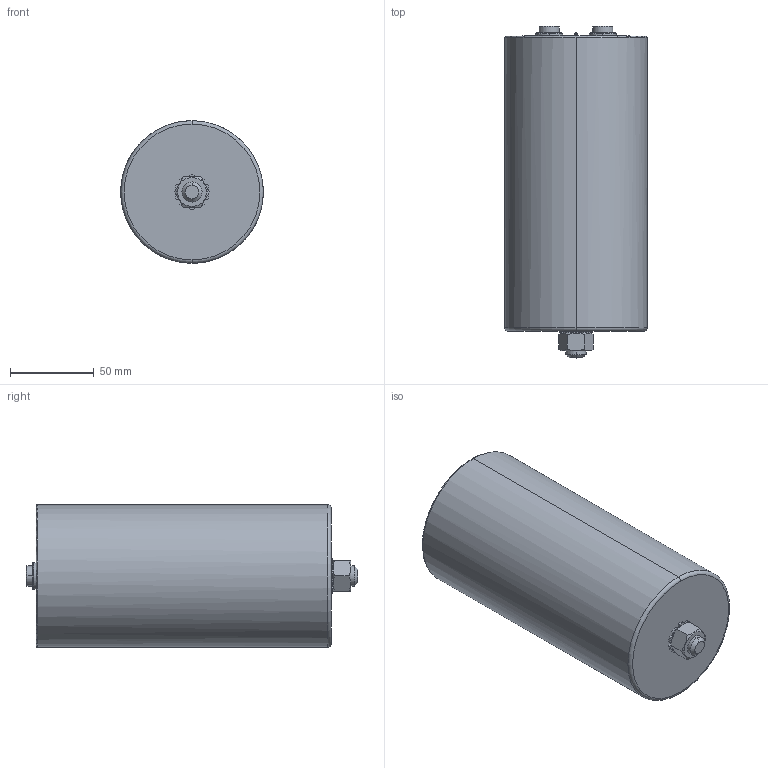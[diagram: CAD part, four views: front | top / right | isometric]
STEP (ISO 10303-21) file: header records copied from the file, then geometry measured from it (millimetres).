
FILE_DESCRIPTION (( 'STEP AP214' ), '1' );
FILE_NAME ('B25694M Series D85 Hc176 Ht182.STEP', '2025-07-24T05:23:45', ( '' ), ( '' ), 'SwSTEP 2.0', 'SolidWorks 2019', '' );
FILE_SCHEMA (( 'AUTOMOTIVE_DESIGN' ));
Length unit declared in the file: millimetre
Products named in the file (1): B25694M Series D85 Hc176 Ht182
Bounding box: 85 x 198 x 85 mm (x, y, z)
Volume: 1003417.2 mm3; surface area: 59804.5 mm2
Topology: 1 solids, 2 shells, 137 faces, 331 edges, 202 vertices
Faces by surface type: plane 59, cylinder 48, cone 22, torus 8
Entity records: 4131 total; most frequent: CARTESIAN_POINT 799, DIRECTION 761, ORIENTED_EDGE 654, EDGE_CURVE 327, AXIS2_PLACEMENT_3D 308, VERTEX_POINT 202, CIRCLE 170, EDGE_LOOP 147
